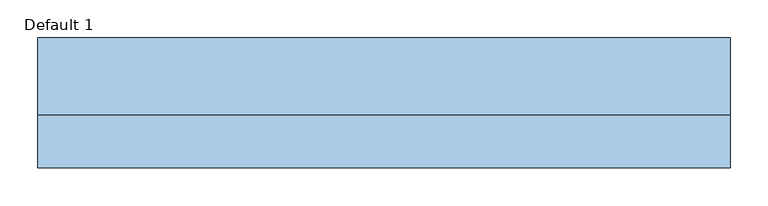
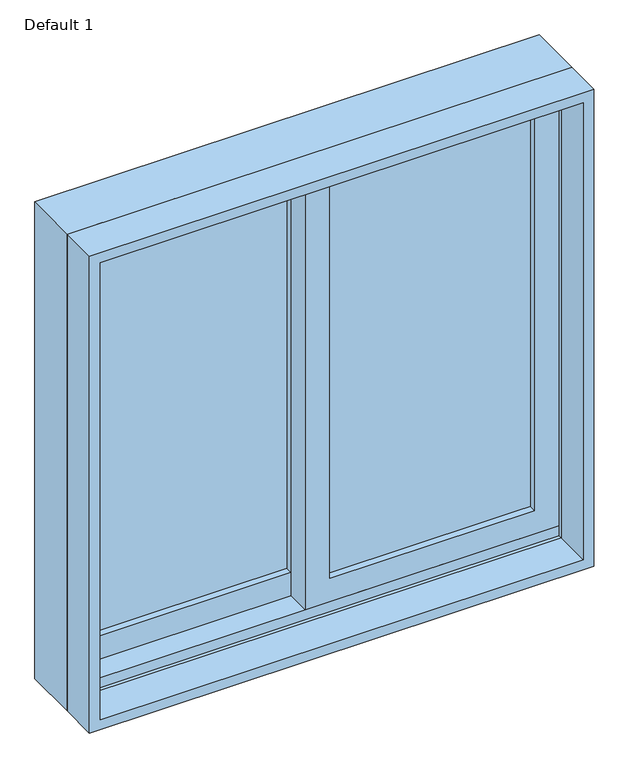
"""IFC4 building model written with IfcOpenShell, lengths in millimetres: window geometry, Planitar-Sliding-Double : Default 1."""

from ifc_helpers import new_model, si_unit, frame, origin, place, context, project, spatial, polyline, outline, extrude, faceted_brep, source, transform, mapped, element, save


def default_1_1ae5369a(model_context):
    return source(origin(), model_context, "Body", "SolidModel", [
        extrude(outline(polyline([(933.45, -438.15), (933.45, 22.225), (1809.75, 22.225), (1809.75, -438.15), (933.45, -438.15)]), holes=[polyline([(1765.3, -22.225), (996.95, -22.225), (996.95, -393.7), (1765.3, -393.7), (1765.3, -22.225)])]), frame((0.0, 40.64, 0.0), z_axis=(0.0, 1.0, 0.0), x_axis=(0.0, 0.0, 1.0)), (0.0, 0.0, 1.0), 44.45),
        extrude(outline(polyline([(952.5, 438.15), (1809.75, 438.15), (1809.75, -22.225), (952.5, -22.225), (952.5, 438.15)]), holes=[polyline([(996.95, 22.225), (1765.3, 22.225), (1765.3, 393.7), (996.95, 393.7), (996.95, 22.225)])]), frame((0.0, -3.81, 0.0), z_axis=(0.0, 1.0, 0.0), x_axis=(0.0, 0.0, 1.0)), (0.0, 0.0, 1.0), 44.45),
        faceted_brep([(-457.2, -10.16, 914.4), (-457.2, 91.44, 914.4), (457.2, 91.44, 914.4), (457.2, -10.16, 914.4), (-416.2778905, 91.44, 1787.8778905), (-416.2778905, 85.09, 1787.8778905), (-416.2778905, 85.09, 933.45), (-416.2778905, 91.44, 933.45), (416.2778905, 85.09, 1787.8778905), (416.2778905, 85.09, 933.45), (438.15, 85.09, 933.45), (438.15, 85.09, 1809.75), (-438.15, 85.09, 1809.75), (-438.15, 85.09, 933.45), (-438.15, -10.16, 1809.75), (-438.15, -10.16, 933.45), (-438.15, -3.81, 933.45), (-438.15, -3.81, 952.5), (-438.15, 40.64, 952.5), (-438.15, 40.64, 933.45), (457.2, -10.16, 1828.8), (-457.2, -10.16, 1828.8), (438.15, -10.16, 1809.75), (438.15, -10.16, 933.45), (-457.2, 91.44, 1828.8), (457.2, 91.44, 1828.8), (416.2778905, 91.44, 933.45), (416.2778905, 91.44, 1787.8778905), (438.15, 40.64, 933.45), (438.15, 40.64, 952.5), (438.15, -3.81, 952.5), (438.15, -3.81, 933.45)], [[[0, 1, 2, 3]], [[4, 5, 6, 7]], [[5, 8, 9, 10, 11, 12, 13, 6]], [[12, 14, 15, 16, 17, 18, 19, 13]], [[0, 3, 20, 21], [22, 23, 15, 14]], [[24, 1, 0, 21]], [[2, 1, 24, 25], [4, 7, 26, 27]], [[5, 4, 27, 8]], [[12, 11, 22, 14]], [[21, 20, 25, 24]], [[8, 27, 26, 9]], [[22, 11, 10, 28, 29, 30, 31, 23]], [[20, 3, 2, 25]], [[26, 7, 6, 13, 19, 28, 10, 9]], [[28, 19, 18, 29]], [[29, 18, 17, 30]], [[30, 17, 16, 31]], [[15, 23, 31, 16]]]),
        extrude(outline(polyline([(1828.8, -457.2), (914.4, -457.2), (914.4, 457.2), (1828.8, 457.2), (1828.8, -457.2)]), holes=[polyline([(1809.75, 438.15), (933.45, 438.15), (933.45, -438.15), (1809.75, -438.15), (1809.75, 438.15)])]), frame((0.0, -80.01, 0.0), z_axis=(0.0, 1.0, 0.0), x_axis=(0.0, 0.0, 1.0)), (0.0, 0.0, 1.0), 69.85),
        extrude(outline(polyline([(393.7, 27.94), (393.7, 21.59), (22.225, 21.59), (22.225, 27.94), (393.7, 27.94)])), frame((0.0, 0.0, 996.95), z_axis=(0.0, 0.0, 1.0), x_axis=(1.0, 0.0, 0.0)), (0.0, 0.0, 1.0), 768.35),
        extrude(outline(polyline([(393.7, 15.24), (393.7, 8.89), (22.225, 8.89), (22.225, 15.24), (393.7, 15.24)])), frame((0.0, 0.0, 996.95), z_axis=(0.0, 0.0, 1.0), x_axis=(1.0, 0.0, 0.0)), (0.0, 0.0, 1.0), 768.35),
        extrude(outline(polyline([(-22.225, 72.39), (-22.225, 66.04), (-393.7, 66.04), (-393.7, 72.39), (-22.225, 72.39)])), frame((0.0, 0.0, 996.95), z_axis=(0.0, 0.0, 1.0), x_axis=(1.0, 0.0, 0.0)), (0.0, 0.0, 1.0), 768.35),
        extrude(outline(polyline([(-22.225, 59.69), (-22.225, 53.34), (-393.7, 53.34), (-393.7, 59.69), (-22.225, 59.69)])), frame((0.0, 0.0, 996.95), z_axis=(0.0, 0.0, 1.0), x_axis=(1.0, 0.0, 0.0)), (0.0, 0.0, 1.0), 768.35),
    ])


if __name__ == "__main__":
    model = new_model("IFC4")
    model_context = context("Model", 3, world=origin())
    ifc_project = project(units=[si_unit("LENGTHUNIT", "METRE", prefix="MILLI")], contexts=[model_context])
    site = spatial("IfcSite", under=ifc_project)
    building = spatial("IfcBuilding", under=site)
    placement = place(None, origin())
    default_1_shape = default_1_1ae5369a(model_context)
    element("IfcWindow", 1, ObjectType="Planitar-Sliding-Double : Default 1", at=placement, inside=building, context=model_context, shape_type="MappedRepresentation", body=[
        mapped(default_1_shape, transform((0.0, 0.0, 0.0), x_axis=(1.0, 0.0, 0.0), y_axis=(0.0, 1.0, 0.0), z_axis=(0.0, 0.0, 1.0))),
    ])
    save(model, "model.ifc")
